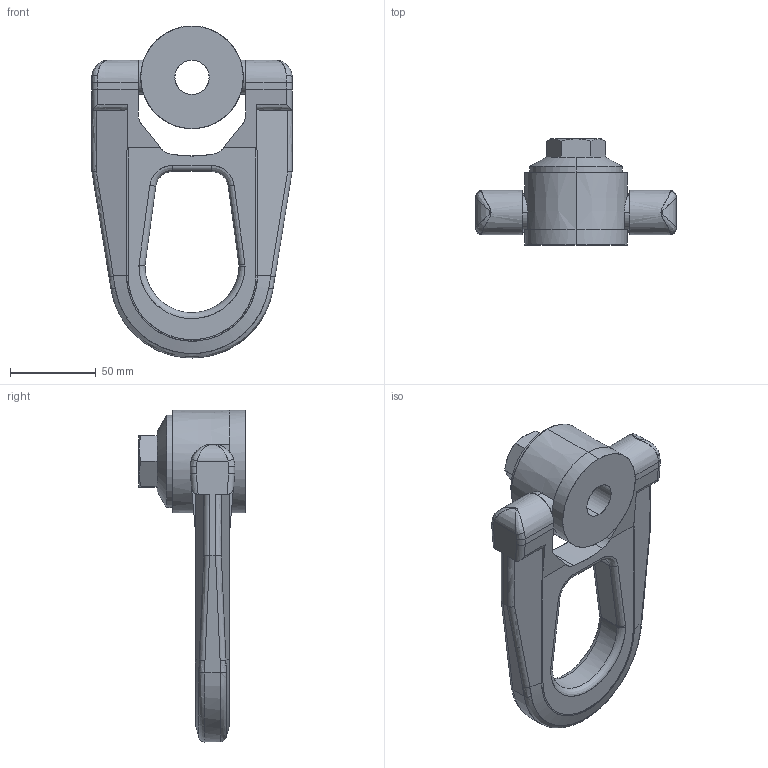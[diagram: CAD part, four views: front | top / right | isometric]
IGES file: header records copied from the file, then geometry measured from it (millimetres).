
Start section: SolidWorks IGES file using analytic representation for surfaces
Global section: file name: C:\Documents and Settings\IANO\My Documents\Wix and Auto CAD Work\CAD Models\Parametric Models\Wix Models\60000\63054_v2\63054_v2_IGES\63054.W0020.igs; native system: SolidWorks 2009; preprocessor: SolidWorks 2009; author: IANO; date: 131212.155903; units: millimetre
Bounding box: 117 x 62 x 194 mm (x, y, z)
Surface area: 58171.3 mm2 (no closed solid volume)
Topology: 0 solids, 0 shells, 158 faces, 2004 edges, 2000 vertices
Faces by surface type: bspline 91, revolution 67
